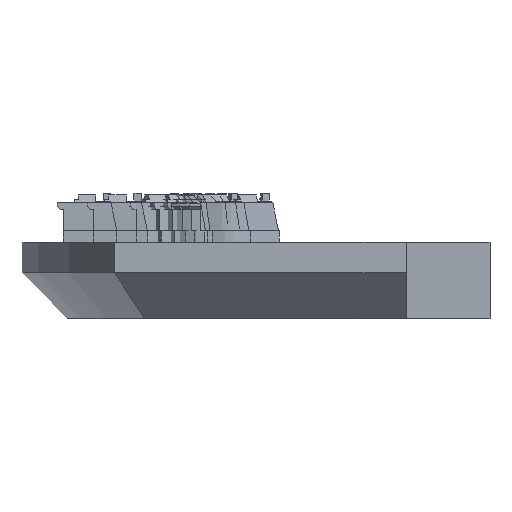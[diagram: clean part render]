
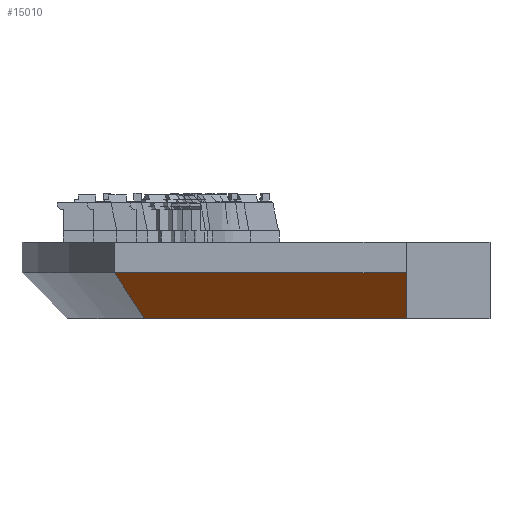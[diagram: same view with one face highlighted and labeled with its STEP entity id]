
A CAD part, front view. The second image highlights one B-rep face of the part: STEP entity #15010.
In plain terms, the highlighted planar face has unit normal (0, -0.707, -0.707).
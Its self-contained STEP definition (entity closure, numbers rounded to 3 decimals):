
#35 = ORIENTED_EDGE ( 'NONE', *, *, #7357, .T. ) ;
#252 = CARTESIAN_POINT ( 'NONE',  ( -31416.556, -13000., -8500. ) ) ;
#373 = VERTEX_POINT ( 'NONE', #252 ) ;
#755 = FACE_OUTER_BOUND ( 'NONE', #10413, .T. ) ;
#821 = CARTESIAN_POINT ( 'NONE',  ( -31749.775, -13498.505, -8001.495 ) ) ;
#1258 = EDGE_CURVE ( 'NONE', #3288, #12078, #15467, .T. ) ;
#2013 = VECTOR ( 'NONE', #13056, 1000. ) ;
#2230 = DIRECTION ( 'NONE',  ( 1., 0., 0. ) ) ;
#2405 = EDGE_CURVE ( 'NONE', #373, #12078, #12294, .T. ) ;
#2487 = CARTESIAN_POINT ( 'NONE',  ( -22850., -14500., -7000. ) ) ;
#2640 = AXIS2_PLACEMENT_3D ( 'NONE', #14583, #4831, #4583 ) ;
#3109 = CARTESIAN_POINT ( 'NONE',  ( -22850., -13000., -8500. ) ) ;
#3288 = VERTEX_POINT ( 'NONE', #2487 ) ;
#3617 = CARTESIAN_POINT ( 'NONE',  ( -29765.543, -13000., -8500. ) ) ;
#4489 = CARTESIAN_POINT ( 'NONE',  ( -32078.851, -13998.742, -7501.258 ) ) ;
#4583 = DIRECTION ( 'NONE',  ( 0., -0.707, 0.707 ) ) ;
#4739 = ORIENTED_EDGE ( 'NONE', *, *, #2405, .F. ) ;
#4831 = DIRECTION ( 'NONE',  ( 0., -0.707, -0.707 ) ) ;
#5267 = ORIENTED_EDGE ( 'NONE', *, *, #1258, .T. ) ;
#5739 = CARTESIAN_POINT ( 'NONE',  ( -32403.703, -14500., -7000. ) ) ;
#5868 = EDGE_CURVE ( 'NONE', #15401, #3288, #11675, .T. ) ;
#7357 = EDGE_CURVE ( 'NONE', #373, #15401, #14755, .T. ) ;
#8088 = CARTESIAN_POINT ( 'NONE',  ( -31416.556, -13000., -8500. ) ) ;
#8767 = VECTOR ( 'NONE', #9333, 1000. ) ;
#9333 = DIRECTION ( 'NONE',  ( -1., 0., 0. ) ) ;
#9737 = VECTOR ( 'NONE', #2230, 1000. ) ;
#10413 = EDGE_LOOP ( 'NONE', ( #13177, #5267, #4739, #35 ) ) ;
#11675 = LINE ( 'NONE', #14317, #2013 ) ;
#12078 = VERTEX_POINT ( 'NONE', #14351 ) ;
#12294 = B_SPLINE_CURVE_WITH_KNOTS ( 'NONE', 3,
 ( #8088, #821, #4489, #5739 ),
 .UNSPECIFIED., .F., .F.,
 ( 4, 4 ),
 ( -233.932, 0. ),
 .UNSPECIFIED. ) ;
#13056 = DIRECTION ( 'NONE',  ( 0., -0.707, 0.707 ) ) ;
#13177 = ORIENTED_EDGE ( 'NONE', *, *, #5868, .T. ) ;
#14249 = CARTESIAN_POINT ( 'NONE',  ( -29765.543, -14500., -7000. ) ) ;
#14317 = CARTESIAN_POINT ( 'NONE',  ( -22850., -14375., -7125. ) ) ;
#14351 = CARTESIAN_POINT ( 'NONE',  ( -32403.703, -14500., -7000. ) ) ;
#14583 = CARTESIAN_POINT ( 'NONE',  ( -29765.543, -13750., -7750. ) ) ;
#14755 = LINE ( 'NONE', #3617, #9737 ) ;
#15010 = ADVANCED_FACE ( 'NONE', ( #755 ), #15387, .T. ) ;
#15387 = PLANE ( 'NONE',  #2640 ) ;
#15401 = VERTEX_POINT ( 'NONE', #3109 ) ;
#15467 = LINE ( 'NONE', #14249, #8767 ) ;
